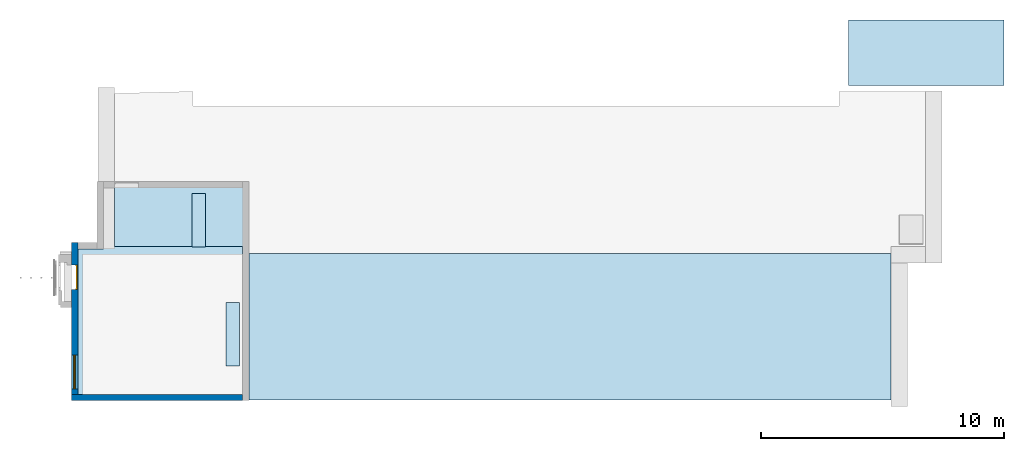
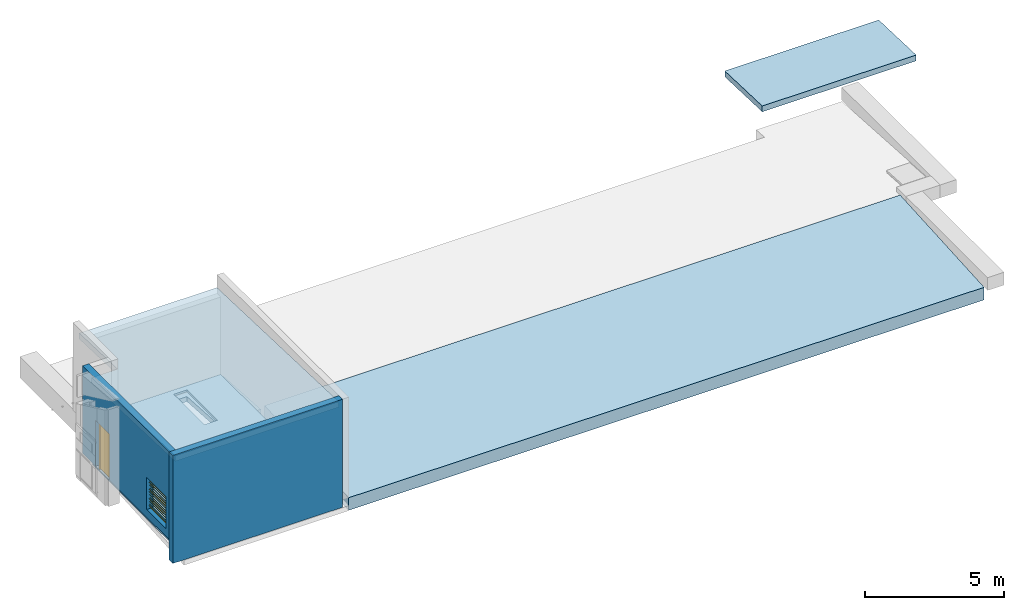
"""IFC2X3 building model written with IfcOpenShell, lengths in millimetres."""

import ifcopenshell
import ifcopenshell.guid

model = None  # the IFC model being written
_history = None  # IfcOwnerHistory: only IFC2X3 demands one
_inside = {}  # id of a spatial element -> (the spatial element, [elements in it])
_under = {}  # id of a project, library or spatial element -> (it, [spatial elements below it])
_declared = {}  # id of a project -> (the project, [libraries it declares])
_typed = {}  # id of a type object -> (the type object, [elements of that type])
_made_of = {}  # id of a material, layer set ... -> (it, [elements and type objects made of it])


def new_model(schema):
    """Start an empty IFC model of exactly this schema.

    Asked for "IFC4X3", IfcOpenShell would pick the latest addendum, in which some entities
    have other attributes; the version numbers below select the first issue.
    IFC2X3 requires an IfcOwnerHistory on every rooted entity: one is made here for all.
    """
    global model, _history
    if schema == "IFC4X3":
        model = ifcopenshell.file(schema_version=(4, 3, 0, 0))
    else:
        model = ifcopenshell.file(schema=schema)
    _inside.clear()
    _under.clear()
    _declared.clear()
    _typed.clear()
    _made_of.clear()
    _history = None
    if model.schema == "IFC2X3":
        org = make("IfcOrganization", Name="unknown")
        user = make(
            "IfcPersonAndOrganization",
            ThePerson=make("IfcPerson", FamilyName="unknown"),
            TheOrganization=org,
        )
        app = make(
            "IfcApplication",
            ApplicationDeveloper=org,
            Version="unknown",
            ApplicationFullName="unknown",
            ApplicationIdentifier="unknown",
        )
        _history = make(
            "IfcOwnerHistory",
            OwningUser=user,
            OwningApplication=app,
            ChangeAction="ADDED",
            CreationDate=0,
        )
    return model


def make(cls, **values):
    """One entity of the class cls with the attributes given. An attribute that is None is left unset."""
    return model.create_entity(
        cls, **{name: value for name, value in values.items() if value is not None}
    )


def entity(cls, *values):
    """Any entity or typed value of the class cls, its attributes in the order of the schema. None: left unset."""
    e = model.create_entity(cls)
    for i, value in enumerate(values):
        if value is not None:
            e[i] = value
    return e


def rooted(cls, **values):
    """An entity with a GlobalId (a new one), such as an element, a storey or a relation."""
    return make(cls, GlobalId=ifcopenshell.guid.new(), OwnerHistory=_history, **values)


def si_unit(unit_type, name, prefix=None):
    """IfcSIUnit, for example si_unit("LENGTHUNIT", "METRE", prefix="MILLI")."""
    return make("IfcSIUnit", UnitType=unit_type, Prefix=prefix, Name=name)


def converted_unit(unit_type, name, factor, base, dimensions=None, offset=None):
    """IfcConversionBasedUnit, such as the inch: factor (a typed value) times the base unit."""
    return make(
        "IfcConversionBasedUnit"
        if offset is None
        else "IfcConversionBasedUnitWithOffset",
        ConversionOffset=offset,
        Dimensions=None
        if dimensions is None
        else entity("IfcDimensionalExponents", *dimensions),
        UnitType=unit_type,
        Name=name,
        ConversionFactor=make(
            "IfcMeasureWithUnit", ValueComponent=factor, UnitComponent=base
        ),
    )


def derived_unit(unit_type, elements):
    """IfcDerivedUnit: a product of units, each with its exponent."""
    return make(
        "IfcDerivedUnit",
        Elements=[
            make("IfcDerivedUnitElement", Unit=unit, Exponent=power)
            for unit, power in elements
        ],
        UnitType=unit_type,
    )


def assignment(units):
    """IfcUnitAssignment: the units of a project."""
    return None if units is None else make("IfcUnitAssignment", Units=units)


def point(xyz):
    """IfcCartesianPoint."""
    return None if xyz is None else make("IfcCartesianPoint", Coordinates=xyz)


def direction(xyz):
    """IfcDirection."""
    return None if xyz is None else make("IfcDirection", DirectionRatios=xyz)


def frame(location, z_axis=None, x_axis=None):
    """IfcAxis2Placement3D, a coordinate frame: its origin and axes. An axis left out is left unset."""
    return make(
        "IfcAxis2Placement3D",
        Location=point(location),
        Axis=direction(z_axis),
        RefDirection=direction(x_axis),
    )


def frame_2d(location, x_axis=None):
    """IfcAxis2Placement2D, a coordinate frame in the plane: its origin and x axis."""
    return make(
        "IfcAxis2Placement2D", Location=point(location), RefDirection=direction(x_axis)
    )


def origin():
    """The frame at (0, 0, 0) with its axes left unset."""
    return frame((0.0, 0.0, 0.0))


def place(relative_to, where):
    """IfcLocalPlacement: puts the frame where relative to a parent placement (None: the world)."""
    return make(
        "IfcLocalPlacement", PlacementRelTo=relative_to, RelativePlacement=where
    )


def context(
    kind, dimensions, precision=None, world=None, true_north=None, identifier=None
):
    """IfcGeometricRepresentationContext, for example the 3D "Model" context."""
    return make(
        "IfcGeometricRepresentationContext",
        ContextIdentifier=identifier,
        ContextType=kind,
        CoordinateSpaceDimension=dimensions,
        Precision=precision,
        WorldCoordinateSystem=world,
        TrueNorth=true_north,
    )


def subcontext(parent, identifier, kind, view, scale=None):
    """IfcGeometricRepresentationSubContext, for example "Body" below "Model"."""
    return make(
        "IfcGeometricRepresentationSubContext",
        ContextIdentifier=identifier,
        ContextType=kind,
        ParentContext=parent,
        TargetScale=scale,
        TargetView=view,
    )


def project(units=None, contexts=None):
    """IfcProject with its units and contexts."""
    return rooted(
        "IfcProject",
        Name="project",
        RepresentationContexts=contexts,
        UnitsInContext=assignment(units),
    )


def spatial(cls, under=None, at=None, **own):
    """A site, building, storey or space (cls), placed at a placement, below another one or the project."""
    s = rooted(cls, ObjectPlacement=at, **own)
    if under is not None:
        _under.setdefault(under.id(), (under, []))[1].append(s)
    return s


def polyline(points):
    """IfcPolyline through the points."""
    return make("IfcPolyline", Points=[point(p) for p in points])


def circle_curve(where, radius):
    """IfcCircle in the frame where."""
    return make("IfcCircle", Position=where, Radius=radius)


def parameter(value):
    """IfcParameterValue: where a trimmed curve begins or ends, as a parameter of its basis curve."""
    return model.create_entity("IfcParameterValue", value)


def trimmed(basis, trim1, trim2, sense, master):
    """IfcTrimmedCurve: the piece of a basis curve between two trims."""
    return make(
        "IfcTrimmedCurve",
        BasisCurve=basis,
        Trim1=trim1,
        Trim2=trim2,
        SenseAgreement=sense,
        MasterRepresentation=master,
    )


def segment(curve, same_sense, transition):
    """IfcCompositeCurveSegment."""
    return make(
        "IfcCompositeCurveSegment",
        Transition=transition,
        SameSense=same_sense,
        ParentCurve=curve,
    )


def composite_curve(segments, self_intersect=None):
    """IfcCompositeCurve: segments joined end to end."""
    return make("IfcCompositeCurve", Segments=segments, SelfIntersect=self_intersect)


def profile(cls, at=None, kind="AREA", **sizes):
    """A parametric profile (cls). Its sizes go by their IFC names, for example OverallWidth=200.0."""
    return make(cls, ProfileType=kind, Position=at, **sizes)


def rectangle(**sizes):
    """IfcRectangleProfileDef."""
    return profile("IfcRectangleProfileDef", **sizes)


def outline(outer, holes=None, kind="AREA"):
    """IfcArbitraryClosedProfileDef: a profile drawn as a closed curve; with holes, ...WithVoids."""
    if holes is None:
        return make("IfcArbitraryClosedProfileDef", ProfileType=kind, OuterCurve=outer)
    return make(
        "IfcArbitraryProfileDefWithVoids",
        ProfileType=kind,
        OuterCurve=outer,
        InnerCurves=holes,
    )


def extrude(swept, where, along, depth):
    """IfcExtrudedAreaSolid: the profile swept, set in the frame where, extruded along a direction by depth."""
    return make(
        "IfcExtrudedAreaSolid",
        SweptArea=swept,
        Position=where,
        ExtrudedDirection=direction(along),
        Depth=depth,
    )


def faces_of(points, faces, orient=None, outer=None):
    """IfcFace entities. A face is a list of loops; a loop is a list of indices into points, from 0.

    orient and outer hold one flag for each loop. By default every Orientation is true, the
    first loop of a face is its IfcFaceOuterBound and the others are IfcFaceBound.
    """
    made = []
    for i, loops in enumerate(faces):
        bounds = []
        for j, loop in enumerate(loops):
            is_outer = j == 0 if outer is None else outer[i][j]
            bounds.append(
                make(
                    "IfcFaceOuterBound" if is_outer else "IfcFaceBound",
                    Bound=make("IfcPolyLoop", Polygon=[points[k] for k in loop]),
                    Orientation=True if orient is None else orient[i][j],
                )
            )
        made.append(make("IfcFace", Bounds=bounds))
    return made


def faceted_brep(points, faces, orient=None, outer=None, voids=None):
    """IfcFacetedBrep: a solid bounded by flat faces; with voids (closed shells), ...WithVoids."""
    shared = [point(p) for p in points]
    hull = make("IfcClosedShell", CfsFaces=faces_of(shared, faces, orient, outer))
    if voids is None:
        return make("IfcFacetedBrep", Outer=hull)
    return make(
        "IfcFacetedBrepWithVoids",
        Outer=hull,
        Voids=[
            make(cls, CfsFaces=faces_of(shared, fs, o, b)) for cls, fs, o, b in voids
        ],
    )


def shape(context_of_items, identifier, shape_type, items):
    """IfcShapeRepresentation: the items that make up one representation, for example the "Body"."""
    return make(
        "IfcShapeRepresentation",
        ContextOfItems=context_of_items,
        RepresentationIdentifier=identifier,
        RepresentationType=shape_type,
        Items=items,
    )


def source(mapping_origin, context_of_items, identifier, shape_type, items):
    """IfcRepresentationMap: a shape defined once, which mapped items show again and again."""
    return make(
        "IfcRepresentationMap",
        MappingOrigin=mapping_origin,
        MappedRepresentation=shape(context_of_items, identifier, shape_type, items),
    )


def transform(
    local_origin,
    x_axis=None,
    y_axis=None,
    z_axis=None,
    scale=None,
    scale2=None,
    scale3=None,
    uniform=True,
):
    """IfcCartesianTransformationOperator3D, or its non-uniform kind. x_axis, y_axis, z_axis: its Axis1, 2, 3."""
    if uniform:
        return make(
            "IfcCartesianTransformationOperator3D",
            Axis1=direction(x_axis),
            Axis2=direction(y_axis),
            LocalOrigin=point(local_origin),
            Scale=scale,
            Axis3=direction(z_axis),
        )
    return make(
        "IfcCartesianTransformationOperator3DnonUniform",
        Axis1=direction(x_axis),
        Axis2=direction(y_axis),
        LocalOrigin=point(local_origin),
        Scale=scale,
        Axis3=direction(z_axis),
        Scale2=scale2,
        Scale3=scale3,
    )


def mapped(mapping_source, mapping_target):
    """IfcMappedItem: shows the shape of a source again, moved by a transform."""
    return make(
        "IfcMappedItem", MappingSource=mapping_source, MappingTarget=mapping_target
    )


def material(Name=None, Category=None):
    """IfcMaterial."""
    return make("IfcMaterial", Name=Name, Category=Category)


def material_list(materials):
    """IfcMaterialList."""
    return make("IfcMaterialList", Materials=materials)


def layer(
    of_material, thickness, ventilated=None, Name=None, Category=None, Priority=None
):
    """IfcMaterialLayer: one layer of a wall or slab, of a material (None: an air gap)."""
    return make(
        "IfcMaterialLayer",
        Material=of_material,
        LayerThickness=thickness,
        IsVentilated=ventilated,
        Name=Name,
        Category=Category,
        Priority=Priority,
    )


def layer_set(layers, Name=None):
    """IfcMaterialLayerSet."""
    return make("IfcMaterialLayerSet", MaterialLayers=layers, LayerSetName=Name)


def layer_usage(for_layer_set, set_direction, sense, offset, extent=None):
    """IfcMaterialLayerSetUsage: how a layer set lies in its element."""
    return make(
        "IfcMaterialLayerSetUsage",
        ForLayerSet=for_layer_set,
        LayerSetDirection=set_direction,
        DirectionSense=sense,
        OffsetFromReferenceLine=offset,
        ReferenceExtent=extent,
    )


def made_of(thing, what):
    """Note that an element or type object is made of a material, layer set ...; save() writes the relation."""
    if what is not None:
        _made_of.setdefault(what.id(), (what, []))[1].append(thing)
    return thing


def type_object(cls, material=None, **own):
    """A type object (cls), such as IfcWallType, which elements share."""
    return made_of(rooted(cls, **own), material)


def type_shapes(of_type, sources):
    """Give a type object the sources (RepresentationMaps) that its elements show as mapped items."""
    of_type.RepresentationMaps = sources


def element(
    cls,
    number,
    at=None,
    inside=None,
    cuts=None,
    type_object=None,
    material=None,
    context=None,
    identifier="Body",
    shape_type=None,
    held_by="IfcProductDefinitionShape",
    body=None,
    shapes=None,
    **own,
):
    """One element of the class cls, such as IfcWall. Its Tag is "e" and its number.

    at: its placement. inside: the storey or other place that contains it. cuts: it is an
    opening in that element (IfcRelVoidsElement). A single representation is given by context,
    identifier, shape_type and body (its items); several are given by shapes. held_by: the class
    of the entity that holds the representations. save() writes the other relations.
    """
    e = rooted(cls, Tag="e%d" % number, ObjectPlacement=at, **own)
    if body is not None:
        shapes = [shape(context, identifier, shape_type, body)]
    if shapes is not None:
        e.Representation = make(held_by, Representations=shapes)
    if inside is not None:
        _inside.setdefault(inside.id(), (inside, []))[1].append(e)
    if cuts is not None:
        rooted(
            "IfcRelVoidsElement", RelatingBuildingElement=cuts, RelatedOpeningElement=e
        )
    if type_object is not None:
        _typed.setdefault(type_object.id(), (type_object, []))[1].append(e)
    return made_of(e, material)


def fill(opening, filler):
    """IfcRelFillsElement: the door or window that sits in an opening."""
    return rooted(
        "IfcRelFillsElement",
        RelatingOpeningElement=opening,
        RelatedBuildingElement=filler,
    )


def aggregate(whole, parts):
    """IfcRelAggregates: a whole, such as a stair, and the parts it consists of."""
    return rooted("IfcRelAggregates", RelatingObject=whole, RelatedObjects=parts)


def save(model, path):
    """Write the relations noted so far, then the file.

    IfcRelAggregates (storeys below a building ...), IfcRelContainedInSpatialStructure (elements
    in a storey), IfcRelDefinesByType, IfcRelAssociatesMaterial and IfcRelDeclares: one each for
    every whole, place, type object, material and project.
    """
    for whole, parts in _under.values():
        aggregate(whole, parts)
    for where, things in _inside.values():
        rooted(
            "IfcRelContainedInSpatialStructure",
            RelatedElements=things,
            RelatingStructure=where,
        )
    for kind, things in _typed.values():
        rooted("IfcRelDefinesByType", RelatedObjects=things, RelatingType=kind)
    for what, things in _made_of.values():
        rooted("IfcRelAssociatesMaterial", RelatedObjects=things, RelatingMaterial=what)
    for by, libraries in _declared.values():
        rooted("IfcRelDeclares", RelatingContext=by, RelatedDefinitions=libraries)
    model.write(path)


model = new_model("IFC2X3")

# Units and contexts
model_context = context("Model", 3, precision=0.01, world=origin(), true_north=direction((6.12303176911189e-17, 1.0)))
body_context = subcontext(model_context, "Body", "Model", "MODEL_VIEW")
ifc_project = project(units=[si_unit("LENGTHUNIT", "METRE", prefix="MILLI"), si_unit("AREAUNIT", "SQUARE_METRE"), si_unit("VOLUMEUNIT", "CUBIC_METRE"), converted_unit("PLANEANGLEUNIT", "DEGREE", entity("IfcRatioMeasure", 0.0174532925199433), si_unit("PLANEANGLEUNIT", "RADIAN"), dimensions=[0, 0, 0, 0, 0, 0, 0]), si_unit("MASSUNIT", "GRAM", prefix="KILO"), derived_unit("MASSDENSITYUNIT", [(si_unit("MASSUNIT", "GRAM", prefix="KILO"), 1), (si_unit("LENGTHUNIT", "METRE"), -3)]), si_unit("TIMEUNIT", "SECOND"), si_unit("FREQUENCYUNIT", "HERTZ"), si_unit("THERMODYNAMICTEMPERATUREUNIT", "DEGREE_CELSIUS"), derived_unit("THERMALTRANSMITTANCEUNIT", [(si_unit("MASSUNIT", "GRAM", prefix="KILO"), 1), (si_unit("THERMODYNAMICTEMPERATUREUNIT", "KELVIN"), -1), (si_unit("TIMEUNIT", "SECOND"), -3)]), derived_unit("VOLUMETRICFLOWRATEUNIT", [(si_unit("LENGTHUNIT", "METRE"), 3), (si_unit("TIMEUNIT", "SECOND"), -1)]), si_unit("ELECTRICCURRENTUNIT", "AMPERE"), si_unit("ELECTRICVOLTAGEUNIT", "VOLT"), si_unit("POWERUNIT", "WATT"), si_unit("FORCEUNIT", "NEWTON", prefix="KILO"), si_unit("ILLUMINANCEUNIT", "LUX"), si_unit("LUMINOUSFLUXUNIT", "LUMEN"), si_unit("LUMINOUSINTENSITYUNIT", "CANDELA"), derived_unit("USERDEFINED", [(si_unit("MASSUNIT", "GRAM", prefix="KILO"), -1), (si_unit("LENGTHUNIT", "METRE"), -2), (si_unit("TIMEUNIT", "SECOND"), 3), (si_unit("LUMINOUSFLUXUNIT", "LUMEN"), 1)]), derived_unit("LINEARVELOCITYUNIT", [(si_unit("LENGTHUNIT", "METRE"), 1), (si_unit("TIMEUNIT", "SECOND"), -1)]), si_unit("PRESSUREUNIT", "PASCAL"), derived_unit("USERDEFINED", [(si_unit("LENGTHUNIT", "METRE"), -2), (si_unit("MASSUNIT", "GRAM", prefix="KILO"), 1), (si_unit("TIMEUNIT", "SECOND"), -2)])], contexts=[model_context])

# Site, building, storey
site_placement = place(None, frame((-151.875543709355, 2715.0, 0.0)))
site = spatial("IfcSite", under=ifc_project, at=site_placement, Name="Surface", CompositionType="ELEMENT")
building_placement = place(site_placement, origin())
building = spatial("IfcBuilding", under=site, at=building_placement, CompositionType="ELEMENT")
storey_1_placement = place(building_placement, frame((0.0, 0.0, 13600.0)))
storey_1 = spatial("IfcBuildingStorey", under=building, at=storey_1_placement, Name="Katusekorrus", CompositionType="ELEMENT", Elevation=13600.0000000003)

# Roof, slab
roof_1_placement = place(storey_1_placement, frame((246.0, 495.904632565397, 3600.0)))
roof_1 = element("IfcRoof", 1, at=roof_1_placement, inside=storey_1, Name="Basic Roof:KL-2", ObjectType="Basic Roof:KL-2", ShapeType="NOTDEFINED")
ifc_material_1 = material(Name="PVC")
ifc_layer_1 = layer(ifc_material_1, 3.0)
ifc_material_2 = material(Name="Rocwool")
ifc_layer_2 = layer(ifc_material_2, 120.0)
ifc_material_3 = material(Name="Profiilplekk")
ifc_layer_3 = layer(ifc_material_3, 130.0)
ifc_layer_set_1 = layer_set([ifc_layer_1, ifc_layer_2, ifc_layer_3], Name="Basic Roof:KL-2")
slab_1_placement = place(roof_1_placement, origin())
slab_1 = element("IfcSlab", 2, at=slab_1_placement, material=ifc_layer_set_1, Name="Basic Roof:KL-2", ObjectType="Basic Roof:KL-2", PredefinedType="ROOF", context=body_context, shape_type="SweptSolid", body=[
    extrude(outline(polyline([(-3402.24674623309, -4386.71993649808), (3402.24674623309, -4386.71993649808), (3402.24674623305, 4386.71993649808), (-2326.24674623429, 4386.71993649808), (-2326.2467462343, 1635.04368967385), (-3402.24674623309, 1635.04368967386), (-3402.24674623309, -4386.71993649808)])), frame((3402.24674623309, 4384.04766523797, 153.094317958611), z_axis=(0.0, 0.0348994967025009, 0.999390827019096), x_axis=(1.0, 0.0, 0.0)), (0.0, -0.0348994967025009, 0.999390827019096), 253.154214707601),
])
aggregate(roof_1, [slab_1])

roof_2_placement = place(storey_1_placement, frame((1770.0, 6573.9522793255, -349.634558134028)))
roof_2 = element("IfcRoof", 3, at=roof_2_placement, inside=storey_1, Name="Basic Roof:Vent.ruumi õõnespaneelid", ObjectType="Basic Roof:Vent.ruumi õõnespaneelid", ShapeType="NOTDEFINED")
ifc_material_4 = material(Name="Betoon paneel")
ifc_layer_4 = layer(ifc_material_4, 220.0)
ifc_layer_set_2 = layer_set([ifc_layer_4], Name="Basic Roof:Vent.ruumi õõnespaneelid")
slab_2_placement = place(roof_2_placement, origin())
slab_2 = element("IfcSlab", 4, at=slab_2_placement, material=ifc_layer_set_2, Name="Basic Roof:Vent.ruumi õõnespaneelid", ObjectType="Basic Roof:Vent.ruumi õõnespaneelid", PredefinedType="ROOF", context=body_context, shape_type="SweptSolid", body=[
    extrude(outline(polyline([(-2773.24674625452, -1347.77272253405), (417.62618308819, -1347.77272253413), (417.62618308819, 842.742713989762), (967.516269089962, 842.742713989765), (967.516269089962, -1347.77272253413), (2773.2467462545, -1347.77272253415), (2773.24674625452, 1347.77272253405), (-2773.2467462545, 1347.77272253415), (-2773.24674625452, -1347.77272253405)])), frame((2773.24674625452, 1345.02384185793, 86.035902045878), z_axis=(0.0, 0.0638356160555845, 0.997960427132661), x_axis=(1.0, 0.0, 0.0)), (0.0, -0.0638356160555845, 0.997960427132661), 220.449623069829),
])
aggregate(roof_2, [slab_2])

roof_3_placement = place(storey_1_placement, frame((7316.49349250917, 249.90463256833, -564.560585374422)))
roof_3 = element("IfcRoof", 5, at=roof_3_placement, inside=storey_1, Name="Basic Roof:KL-1_olemasolev rekonstrueeritav katus", ObjectType="Basic Roof:KL-1_olemasolev rekonstrueeritav katus", ShapeType="NOTDEFINED")
ifc_material_5 = material(Name="SBS")
ifc_layer_5 = layer(ifc_material_5, 10.0)
ifc_material_6 = material(Name="Jäik villaplaat")
ifc_layer_6 = layer(ifc_material_6, 30.0)
ifc_material_7 = material(Name="Soojustus, polüuretaan")
ifc_layer_7 = layer(ifc_material_7, 120.0)
ifc_layer_8 = layer(ifc_material_7, 120.0)
ifc_material_8 = material(Name="Betoon")
ifc_layer_9 = layer(ifc_material_8, 50.0)
ifc_layer_10 = layer(ifc_material_4, 220.0)
ifc_layer_set_3 = layer_set([ifc_layer_5, ifc_layer_6, ifc_layer_7, ifc_layer_8, ifc_layer_9, ifc_layer_10], Name="Basic Roof:KL-1_olemasolev rekonstrueeritav katus")
slab_3_placement = place(roof_3_placement, origin())
slab_3 = element("IfcSlab", 6, at=slab_3_placement, material=ifc_layer_set_3, Name="Basic Roof:KL-1_olemasolev rekonstrueeritav katus", ObjectType="Basic Roof:KL-1_olemasolev rekonstrueeritav katus", PredefinedType="ROOF", context=body_context, shape_type="SweptSolid", body=[
    extrude(rectangle(XDim=6062.41241558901, YDim=26425.1227756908, at=frame_2d((-9.09494701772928e-13, 0.0), x_axis=(0.0, -1.0))), frame((13212.5613878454, 3025.02384185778, 193.498915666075), z_axis=(0.0, -0.0638356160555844, 0.997960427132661), x_axis=(1.0, 0.0, 0.0)), (0.0, 0.0638356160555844, 0.997960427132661), 551.12405767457),
])
aggregate(roof_3, [slab_3])

# Slab, openings
ifc_material_9 = material(Name="Viimistlus")
ifc_layer_11 = layer(ifc_material_9, 20.0)
ifc_layer_12 = layer(ifc_material_8, 30.0)
ifc_material_10 = material(Name="Helisummutusvill")
ifc_layer_13 = layer(ifc_material_10, 30.0)
ifc_layer_set_4 = layer_set([ifc_layer_11, ifc_layer_12, ifc_layer_13], Name="Floor:VL-2_vahelagi ventruumis")
ifc_layer_usage_1 = layer_usage(ifc_layer_set_4, "AXIS3", "POSITIVE", 0.0)
slab_4_placement = place(storey_1_placement, frame((266.0, 495.904632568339, 120.0)))
slab_4 = element("IfcSlab", 7, at=slab_4_placement, inside=storey_1, material=ifc_layer_usage_1, Name="Floor:VL-2_vahelagi ventruumis", ObjectType="Floor:VL-2_vahelagi ventruumis", PredefinedType="FLOOR", context=body_context, shape_type="SweptSolid", body=[
    extrude(outline(polyline([(2336.2467462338, 4251.04766523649), (-3392.2467462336, 4251.04766523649), (-3392.2467462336, -4251.04766523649), (3392.2467462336, -4251.04766523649), (3392.2467462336, 1722.04770219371), (2336.24674623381, 1722.04770219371), (2336.2467462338, 4251.04766523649)])), frame((3392.2467462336, 4251.04766523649, 80.0), z_axis=(0.0, 0.0, -1.0), x_axis=(-1.0, 0.0, 0.0)), (0.0, 0.0, 1.0), 79.9999999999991),
])
opening_1_placement = place(storey_1_placement, frame((266.0, 495.904632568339, 120.0)))
element("IfcOpeningElement", 8, at=opening_1_placement, cuts=slab_4, ObjectType="Opening", context=body_context, shape_type="SweptSolid", body=[
    extrude(rectangle(XDim=2599.75447314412, YDim=550.000000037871, at=frame_2d((-2979.24678317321, -1782.03012723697), x_axis=(0.0, -1.0))), frame((3392.2467462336, 4251.04766523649, 80.0), z_axis=(0.0, 0.0, -1.0), x_axis=(-1.0, 0.0, 0.0)), (0.0, 0.0, 1.0), 79.9999999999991),
])
opening_2_placement = place(storey_1_placement, frame((266.0, 495.904632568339, 120.0)))
element("IfcOpeningElement", 9, at=opening_2_placement, cuts=slab_4, ObjectType="Opening", context=body_context, shape_type="SweptSolid", body=[
    extrude(rectangle(XDim=2199.9999999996, YDim=549.890086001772, at=frame_2d((-1577.57122606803, 2913.04770219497), x_axis=(0.0, -1.0))), frame((3392.2467462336, 4251.04766523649, 80.0), z_axis=(0.0, 0.0, -1.0), x_axis=(-1.0, 0.0, 0.0)), (0.0, 0.0, 1.0), 79.9999999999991),
])

# Roof, slab
roof_4_placement = place(storey_1_placement, frame((31996.6162682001, 13210.0, 358.628025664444)))
roof_4 = element("IfcRoof", 10, at=roof_4_placement, inside=storey_1, Name="Basic Roof:KL-2", ObjectType="Basic Roof:KL-2", ShapeType="NOTDEFINED")
slab_5_placement = place(roof_4_placement, origin())
slab_5 = element("IfcSlab", 11, at=slab_5_placement, material=ifc_layer_set_1, Name="Basic Roof:KL-2", ObjectType="Basic Roof:KL-2", PredefinedType="ROOF", context=body_context, shape_type="SweptSolid", body=[
    extrude(rectangle(XDim=6400.00000000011, YDim=2697.68246543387, at=frame_2d((-1.29602995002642e-11, 6.28688212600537e-11), x_axis=(1.0, 0.0))), frame((3200.0, 1348.0195550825, 47.0738801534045), z_axis=(0.0, 0.0348994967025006, 0.999390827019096), x_axis=(1.0, 0.0, 0.0)), (0.0, -0.0348994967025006, 0.999390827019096), 253.154214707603),
])
aggregate(roof_4, [slab_5])

# Wall
ifc_material_11 = material(Name="External face timepruun h=1100mm")
ifc_layer_14 = layer(ifc_material_11, 54.0)
ifc_material_12 = material(Name="Core Mineral wool Mineral Wool h=1100mm")
ifc_layer_15 = layer(ifc_material_12, 200.0)
ifc_material_13 = material(Name="__Kips GKB_niiskuskindel")
ifc_layer_16 = layer(ifc_material_13, 12.0)
ifc_layer_set_5 = layer_set([ifc_layer_14, ifc_layer_15, ifc_layer_16], Name="Basic Wall:VS-3_vent.ruumide ja ladude välissein")
ifc_layer_usage_2 = layer_usage(ifc_layer_set_5, "AXIS2", "NEGATIVE", 133.0)
wall_type = type_object("IfcWallType", Name="Basic Wall:VS-3_vent.ruumide ja ladude välissein", PredefinedType="STANDARD", material=ifc_layer_set_5)
wall_1_placement = place(storey_1_placement, frame((7050.49349250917, 362.904632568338, -329.621595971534), z_axis=(0.0, 0.0, 1.0), x_axis=(-1.0, 0.0, 0.0)))
element("IfcWallStandardCase", 12, at=wall_1_placement, inside=storey_1, type_object=wall_type, material=ifc_layer_usage_2, Name="Basic Wall:VS-3_vent.ruumide ja ladude välissein", ObjectType="Basic Wall:VS-3_vent.ruumide ja ladude välissein", context=body_context, shape_type="SweptSolid", body=[
    extrude(rectangle(XDim=7050.49349246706, YDim=266.0, at=frame_2d((3525.24674623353, 0.0), x_axis=(-1.0, 0.0))), origin(), (0.0, 0.0, 1.0), 4749.62159597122),
])

# Wall, openings, door
ifc_layer_usage_3 = layer_usage(ifc_layer_set_5, "AXIS2", "NEGATIVE", 133.0)
wall_2_placement = place(storey_1_placement, frame((133.0, 495.90463256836, 560.0), z_axis=(0.0, 0.0, 1.0), x_axis=(0.0, 1.0, 0.0)))
wall_2 = element("IfcWallStandardCase", 13, at=wall_2_placement, inside=storey_1, type_object=wall_type, material=ifc_layer_usage_3, Name="Basic Wall:VS-3_vent.ruumide ja ladude välissein", ObjectType="Basic Wall:VS-3_vent.ruumide ja ladude välissein", context=body_context, shape_type="SweptSolid", body=[
    extrude(rectangle(XDim=6239.09536743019, YDim=266.0, at=frame_2d((3119.54768371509, -2.8421709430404e-14), x_axis=(-1.0, 0.0))), origin(), (0.0, 0.0, 1.0), 3860.0),
])
opening_3_placement = place(wall_2_placement, frame((5315.88964844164, 133.0, -178.0)))
opening_3 = element("IfcOpeningElement", 14, at=opening_3_placement, cuts=wall_2, Name="Ühepoolsed:VU-04:1", ObjectType="Opening", context=body_context, shape_type="SweptSolid", body=[
    extrude(rectangle(XDim=2199.99999999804, YDim=1000.0, at=frame_2d((1099.99999999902, 500.0), x_axis=(1.0, 0.0))), frame((0.0, 0.0, 0.0), z_axis=(0.0, -1.0, 0.0), x_axis=(0.0, 0.0, 1.0)), (0.0, 0.0, 1.0), 266.0),
])
opening_4_placement = place(wall_2_placement, frame((1625.09536743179, 133.0, 340.0)))
opening_4 = element("IfcOpeningElement", 15, at=opening_4_placement, cuts=wall_2, Name="Ventrestid:VR-01:1", ObjectType="Opening", context=body_context, shape_type="SweptSolid", body=[
    extrude(rectangle(XDim=1400.0, YDim=1400.0, at=frame_2d((700.000000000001, 700.0), x_axis=(-1.0, 0.0))), frame((0.0, 0.0, 0.0), z_axis=(0.0, -1.0, 0.0), x_axis=(0.0, 0.0, 1.0)), (0.0, 0.0, 1.0), 266.0),
])
ifc_material_14 = material(Name="_Alumiiniumprofiil - must")
ifc_material_15 = material(Name="Steel/Aluminium")
ifc_material_list_1 = material_list([ifc_material_14, ifc_material_15])
ifc_material_list_2 = material_list([ifc_material_14, ifc_material_15])
door_style = type_object("IfcDoorStyle", Name="VU-04", ConstructionType="NOTDEFINED", OperationType="FOLDING_TO_LEFT", ParameterTakesPrecedence=False, Sizeable=False, material=ifc_material_list_2)
shared_shape_1 = source(origin(), body_context, "Body", "Brep", [
    faceted_brep([(900.0, 156.0, 1112.5), (805.0, 156.0, 1112.5), (805.0, 151.0, 1112.5), (925.0, 151.0, 1112.5), (925.0, 194.0, 1112.5), (900.0, 194.0, 1112.5), (900.0, 156.0, 1087.5), (900.0, 194.0, 1087.5), (925.0, 194.0, 1087.5), (925.0, 151.0, 1087.5), (805.0, 151.0, 1087.5), (805.0, 156.0, 1087.5)], [[[0, 1, 2, 3, 4, 5]], [[6, 7, 8, 9, 10, 11]], [[5, 7, 6, 0]], [[4, 8, 7, 5]], [[3, 9, 8, 4]], [[2, 10, 9, 3]], [[1, 11, 10, 2]], [[0, 6, 11, 1]]]),
    faceted_brep([(887.500000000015, 194.0, 1137.5), (937.500000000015, 194.0, 1137.5), (937.500000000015, 196.0, 1137.5), (887.500000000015, 196.0, 1137.5), (887.500000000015, 194.0, 1017.5), (887.500000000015, 196.0, 1017.5), (937.500000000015, 196.0, 1017.5), (937.500000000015, 194.0, 1017.5)], [[[0, 1, 2, 3]], [[4, 5, 6, 7]], [[3, 5, 4, 0]], [[2, 6, 5, 3]], [[1, 7, 6, 2]], [[0, 4, 7, 1]]]),
    faceted_brep([(900.0, 286.0, 1112.5), (900.0, 248.0, 1112.5), (925.0, 248.0, 1112.5), (925.0, 291.0, 1112.5), (805.0, 291.0, 1112.5), (805.0, 286.0, 1112.5), (900.0, 286.0, 1087.5), (805.0, 286.0, 1087.5), (805.0, 291.0, 1087.5), (925.0, 291.0, 1087.5), (925.0, 248.0, 1087.5), (900.0, 248.0, 1087.5)], [[[0, 1, 2, 3, 4, 5]], [[6, 7, 8, 9, 10, 11]], [[1, 0, 6, 11]], [[2, 1, 11, 10]], [[3, 2, 10, 9]], [[4, 3, 9, 8]], [[5, 4, 8, 7]], [[0, 5, 7, 6]]]),
    faceted_brep([(887.500000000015, 248.0, 1137.5), (887.500000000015, 246.0, 1137.5), (937.500000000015, 246.0, 1137.5), (937.500000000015, 248.0, 1137.5), (887.500000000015, 248.0, 1017.5), (937.500000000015, 248.0, 1017.5), (937.500000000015, 246.0, 1017.5), (887.500000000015, 246.0, 1017.5)], [[[0, 1, 2, 3]], [[4, 5, 6, 7]], [[1, 0, 4, 7]], [[2, 1, 7, 6]], [[3, 2, 6, 5]], [[0, 3, 5, 4]]]),
    faceted_brep([(0.0, 156.0, 0.0), (0.0, 246.0, 0.0), (25.0, 246.0, 0.0), (25.0, 196.0, 0.0), (40.0, 196.0, 0.0), (40.0, 156.0, 0.0), (40.0, 156.0, 2160.0), (960.0, 156.0, 2160.0), (960.0, 156.0, 0.0), (1000.0, 156.0, 0.0), (1000.0, 156.0, 2200.0), (0.0, 156.0, 2200.0), (40.0, 196.0, 2160.0), (25.0, 196.0, 2175.0), (975.0, 196.0, 2175.0), (975.0, 196.0, 0.0), (960.0, 196.0, 0.0), (960.0, 196.0, 2160.0), (25.0, 246.0, 2175.0), (0.0, 246.0, 2200.0), (1000.0, 246.0, 2200.0), (1000.0, 246.0, 0.0), (975.0, 246.0, 0.0), (975.0, 246.0, 2175.0)], [[[0, 1, 2, 3, 4, 5]], [[5, 6, 7, 8, 9, 10, 11, 0]], [[4, 12, 6, 5]], [[3, 13, 14, 15, 16, 17, 12, 4]], [[2, 18, 13, 3]], [[1, 19, 20, 21, 22, 23, 18, 2]], [[0, 11, 19, 1]], [[9, 21, 20, 10]], [[8, 16, 15, 22, 21, 9]], [[7, 17, 16, 8]], [[14, 23, 22, 15]], [[6, 12, 17, 7]], [[13, 18, 23, 14]], [[10, 20, 19, 11]]]),
    faceted_brep([(975.0, 196.0, 2175.0), (25.0, 196.0, 2175.0), (25.0, 196.0, 20.0), (975.0, 196.0, 20.0), (975.0, 246.0, 2175.0), (975.0, 246.0, 20.0), (25.0, 246.0, 20.0), (25.0, 246.0, 2175.0)], [[[0, 1, 2, 3]], [[4, 5, 6, 7]], [[3, 5, 4, 0]], [[2, 6, 5, 3]], [[1, 7, 6, 2]], [[0, 4, 7, 1]]]),
])
type_shapes(door_style, [shared_shape_1])
door_placement = place(opening_3_placement, frame((0.0, -4.21223638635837e-08, 0.0), z_axis=(0.0, 0.0, 1.0), x_axis=(-1.0, 0.0, 0.0)))
door = element("IfcDoor", 16, at=door_placement, inside=storey_1, type_object=door_style, material=ifc_material_list_1, Name="Ühepoolsed:VU-04", ObjectType="VU-04", OverallHeight=2199.99999999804, OverallWidth=1000.0, context=body_context, shape_type="MappedRepresentation", body=[
    mapped(shared_shape_1, transform((0.0, 0.0, 0.0), scale=1.0)),
])
fill(opening_3, door)

# Storey
storey_2_placement = place(building_placement, origin())
storey_2 = spatial("IfcBuildingStorey", under=building, at=storey_2_placement, Name="1 korrus", CompositionType="ELEMENT", Elevation=3.0969999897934e-10)

# Window
window_style = type_object("IfcWindowStyle", Name="VR-01", ConstructionType="NOTDEFINED", OperationType="NOTDEFINED", ParameterTakesPrecedence=False, Sizeable=False, material=ifc_material_15)
shared_shape_2 = source(origin(), body_context, "Body", "SweptSolid", [
    extrude(outline(composite_curve([segment(polyline([(-76.1834617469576, -1.58749999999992), (76.1834617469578, -1.58749999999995)]), True, "CONTINUOUS"), segment(trimmed(circle_curve(frame_2d((0.0, 0.0), x_axis=(0.5, 0.86602540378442)), 76.2000000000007), [parameter(298.806251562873)], [parameter(301.193748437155)], True, "PARAMETER"), True, "CONTINUOUS"), segment(polyline([(76.1834617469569, 1.58750000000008), (-76.1834617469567, 1.58749999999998)]), True, "CONTINUOUS"), segment(trimmed(circle_curve(frame_2d((0.0, 0.0), x_axis=(0.5, 0.86602540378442)), 76.2000000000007), [parameter(118.806251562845)], [parameter(121.193748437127)], True, "PARAMETER"), True, "CONTINUOUS")], self_intersect=False)), frame((0.0, 133.0, 1219.83333333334), z_axis=(1.0, 0.0, 0.0), x_axis=(0.0, 0.500000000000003, -0.866025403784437)), (0.0, 0.0, 1.0), 1400.0),
    extrude(outline(composite_curve([segment(polyline([(-76.1834617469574, -1.58749999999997), (76.1834617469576, -1.58749999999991)]), True, "CONTINUOUS"), segment(trimmed(circle_curve(frame_2d((0.0, 0.0), x_axis=(0.5, 0.86602540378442)), 76.2000000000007), [parameter(298.806251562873)], [parameter(301.193748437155)], True, "PARAMETER"), True, "CONTINUOUS"), segment(polyline([(76.1834617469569, 1.58750000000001), (-76.1834617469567, 1.58750000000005)]), True, "CONTINUOUS"), segment(trimmed(circle_curve(frame_2d((0.0, 0.0), x_axis=(0.5, 0.86602540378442)), 76.2000000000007), [parameter(118.806251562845)], [parameter(121.193748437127)], True, "PARAMETER"), True, "CONTINUOUS")], self_intersect=False)), frame((0.0, 133.0, 1115.86666666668), z_axis=(1.0, 0.0, 0.0), x_axis=(0.0, 0.500000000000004, -0.866025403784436)), (0.0, 0.0, 1.0), 1400.0),
    extrude(outline(composite_curve([segment(polyline([(-76.1834617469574, -1.58749999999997), (76.1834617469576, -1.58749999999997)]), True, "CONTINUOUS"), segment(trimmed(circle_curve(frame_2d((0.0, 0.0), x_axis=(0.5, 0.86602540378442)), 76.2000000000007), [parameter(298.806251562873)], [parameter(301.193748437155)], True, "PARAMETER"), True, "CONTINUOUS"), segment(polyline([(76.1834617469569, 1.58750000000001), (-76.1834617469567, 1.58750000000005)]), True, "CONTINUOUS"), segment(trimmed(circle_curve(frame_2d((0.0, 0.0), x_axis=(0.5, 0.86602540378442)), 76.2000000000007), [parameter(118.806251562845)], [parameter(121.193748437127)], True, "PARAMETER"), True, "CONTINUOUS")], self_intersect=False)), frame((0.0, 133.0, 1011.90000000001), z_axis=(1.0, 0.0, 0.0), x_axis=(0.0, 0.500000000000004, -0.866025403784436)), (0.0, 0.0, 1.0), 1400.0),
    extrude(outline(composite_curve([segment(polyline([(-76.1834617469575, -1.58749999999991), (76.1834617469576, -1.58749999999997)]), True, "CONTINUOUS"), segment(trimmed(circle_curve(frame_2d((0.0, 0.0), x_axis=(0.5, 0.86602540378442)), 76.2000000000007), [parameter(298.806251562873)], [parameter(301.193748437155)], True, "PARAMETER"), True, "CONTINUOUS"), segment(polyline([(76.1834617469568, 1.58750000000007), (-76.1834617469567, 1.58750000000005)]), True, "CONTINUOUS"), segment(trimmed(circle_curve(frame_2d((0.0, 0.0), x_axis=(0.5, 0.86602540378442)), 76.2000000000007), [parameter(118.806251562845)], [parameter(121.193748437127)], True, "PARAMETER"), True, "CONTINUOUS")], self_intersect=False)), frame((0.0, 133.0, 907.933333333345), z_axis=(1.0, 0.0, 0.0), x_axis=(0.0, 0.500000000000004, -0.866025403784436)), (0.0, 0.0, 1.0), 1400.0),
    extrude(outline(composite_curve([segment(polyline([(-76.1834617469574, -1.58749999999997), (76.1834617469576, -1.58749999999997)]), True, "CONTINUOUS"), segment(trimmed(circle_curve(frame_2d((0.0, 0.0), x_axis=(0.5, 0.86602540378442)), 76.2000000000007), [parameter(298.806251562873)], [parameter(301.193748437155)], True, "PARAMETER"), True, "CONTINUOUS"), segment(polyline([(76.1834617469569, 1.58750000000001), (-76.1834617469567, 1.58750000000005)]), True, "CONTINUOUS"), segment(trimmed(circle_curve(frame_2d((0.0, 0.0), x_axis=(0.5, 0.86602540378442)), 76.2000000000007), [parameter(118.806251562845)], [parameter(121.193748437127)], True, "PARAMETER"), True, "CONTINUOUS")], self_intersect=False)), frame((0.0, 133.0, 803.966666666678), z_axis=(1.0, 0.0, 0.0), x_axis=(0.0, 0.500000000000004, -0.866025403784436)), (0.0, 0.0, 1.0), 1400.0),
    extrude(outline(composite_curve([segment(polyline([(-76.1834617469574, -1.58749999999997), (76.1834617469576, -1.58749999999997)]), True, "CONTINUOUS"), segment(trimmed(circle_curve(frame_2d((0.0, 0.0), x_axis=(0.5, 0.866025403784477)), 76.2000000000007), [parameter(298.806251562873)], [parameter(301.193748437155)], True, "PARAMETER"), True, "CONTINUOUS"), segment(polyline([(76.1834617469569, 1.58750000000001), (-76.1834617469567, 1.58750000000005)]), True, "CONTINUOUS"), segment(trimmed(circle_curve(frame_2d((0.0, 0.0), x_axis=(0.5, 0.866025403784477)), 76.2000000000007), [parameter(118.806251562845)], [parameter(121.193748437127)], True, "PARAMETER"), True, "CONTINUOUS")], self_intersect=False)), frame((0.0, 133.0, 700.0), z_axis=(1.0, 0.0, 0.0), x_axis=(0.0, 0.500000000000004, -0.866025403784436)), (0.0, 0.0, 1.0), 1400.0),
    extrude(outline(composite_curve([segment(polyline([(-76.1834617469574, -1.58749999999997), (76.1834617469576, -1.58749999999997)]), True, "CONTINUOUS"), segment(trimmed(circle_curve(frame_2d((0.0, 0.0), x_axis=(0.5, 0.86602540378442)), 76.2000000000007), [parameter(298.806251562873)], [parameter(301.193748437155)], True, "PARAMETER"), True, "CONTINUOUS"), segment(polyline([(76.1834617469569, 1.58750000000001), (-76.1834617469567, 1.58750000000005)]), True, "CONTINUOUS"), segment(trimmed(circle_curve(frame_2d((0.0, 0.0), x_axis=(0.5, 0.86602540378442)), 76.2000000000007), [parameter(118.806251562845)], [parameter(121.193748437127)], True, "PARAMETER"), True, "CONTINUOUS")], self_intersect=False)), frame((0.0, 133.0, 596.033333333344), z_axis=(1.0, 0.0, 0.0), x_axis=(0.0, 0.500000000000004, -0.866025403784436)), (0.0, 0.0, 1.0), 1400.0),
    extrude(outline(composite_curve([segment(polyline([(-76.1834617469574, -1.58749999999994), (76.1834617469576, -1.58749999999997)]), True, "CONTINUOUS"), segment(trimmed(circle_curve(frame_2d((0.0, 0.0), x_axis=(0.5, 0.866025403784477)), 76.2000000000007), [parameter(298.806251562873)], [parameter(301.193748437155)], True, "PARAMETER"), True, "CONTINUOUS"), segment(polyline([(76.1834617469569, 1.58750000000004), (-76.1834617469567, 1.58750000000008)]), True, "CONTINUOUS"), segment(trimmed(circle_curve(frame_2d((0.0, 0.0), x_axis=(0.5, 0.866025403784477)), 76.2000000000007), [parameter(118.806251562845)], [parameter(121.193748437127)], True, "PARAMETER"), True, "CONTINUOUS")], self_intersect=False)), frame((0.0, 133.0, 492.066666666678), z_axis=(1.0, 0.0, 0.0), x_axis=(0.0, 0.500000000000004, -0.866025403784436)), (0.0, 0.0, 1.0), 1400.0),
    extrude(outline(composite_curve([segment(polyline([(-76.1834617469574, -1.58749999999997), (76.1834617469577, -1.5875)]), True, "CONTINUOUS"), segment(trimmed(circle_curve(frame_2d((0.0, 0.0), x_axis=(0.5, 0.86602540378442)), 76.2000000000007), [parameter(298.806251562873)], [parameter(301.193748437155)], True, "PARAMETER"), True, "CONTINUOUS"), segment(polyline([(76.1834617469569, 1.58750000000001), (-76.1834617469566, 1.58750000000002)]), True, "CONTINUOUS"), segment(trimmed(circle_curve(frame_2d((0.0, 0.0), x_axis=(0.5, 0.86602540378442)), 76.2000000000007), [parameter(118.806251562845)], [parameter(121.193748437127)], True, "PARAMETER"), True, "CONTINUOUS")], self_intersect=False)), frame((0.0, 133.0, 388.100000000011), z_axis=(1.0, 0.0, 0.0), x_axis=(0.0, 0.500000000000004, -0.866025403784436)), (0.0, 0.0, 1.0), 1400.0),
    extrude(outline(composite_curve([segment(polyline([(-76.1834617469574, -1.58749999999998), (76.1834617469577, -1.58749999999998)]), True, "CONTINUOUS"), segment(trimmed(circle_curve(frame_2d((0.0, 0.0), x_axis=(0.5, 0.86602540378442)), 76.2000000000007), [parameter(298.806251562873)], [parameter(301.193748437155)], True, "PARAMETER"), True, "CONTINUOUS"), segment(polyline([(76.1834617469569, 1.58750000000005), (-76.1834617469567, 1.58750000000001)]), True, "CONTINUOUS"), segment(trimmed(circle_curve(frame_2d((0.0, 0.0), x_axis=(0.5, 0.86602540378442)), 76.2000000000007), [parameter(118.806251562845)], [parameter(121.193748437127)], True, "PARAMETER"), True, "CONTINUOUS")], self_intersect=False)), frame((0.0, 133.0, 284.133333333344), z_axis=(1.0, 0.0, 0.0), x_axis=(0.0, 0.500000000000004, -0.866025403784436)), (0.0, 0.0, 1.0), 1400.0),
    extrude(outline(composite_curve([segment(polyline([(-76.1834617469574, -1.58749999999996), (76.1834617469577, -1.58749999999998)]), True, "CONTINUOUS"), segment(trimmed(circle_curve(frame_2d((0.0, 0.0), x_axis=(0.500000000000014, 0.86602540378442)), 76.2000000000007), [parameter(298.806251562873)], [parameter(301.193748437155)], True, "PARAMETER"), True, "CONTINUOUS"), segment(polyline([(76.1834617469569, 1.58750000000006), (-76.1834617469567, 1.58750000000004)]), True, "CONTINUOUS"), segment(trimmed(circle_curve(frame_2d((0.0, 0.0), x_axis=(0.500000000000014, 0.86602540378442)), 76.2000000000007), [parameter(118.806251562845)], [parameter(121.193748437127)], True, "PARAMETER"), True, "CONTINUOUS")], self_intersect=False)), frame((0.0, 133.0, 180.166666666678), z_axis=(1.0, 0.0, 0.0), x_axis=(0.0, 0.500000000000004, -0.866025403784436)), (0.0, 0.0, 1.0), 1400.0),
    extrude(outline(composite_curve([segment(polyline([(-76.1834617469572, -1.58750000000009), (76.1834617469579, -1.58750000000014)]), True, "CONTINUOUS"), segment(trimmed(circle_curve(frame_2d((0.0, 0.0), x_axis=(0.5, 0.86602540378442)), 76.2000000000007), [parameter(298.806251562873)], [parameter(301.193748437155)], True, "PARAMETER"), True, "CONTINUOUS"), segment(polyline([(76.1834617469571, 1.5874999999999), (-76.1834617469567, 1.58750000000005)]), True, "CONTINUOUS"), segment(trimmed(circle_curve(frame_2d((0.0, 0.0), x_axis=(0.5, 0.86602540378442)), 76.2000000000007), [parameter(118.806251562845)], [parameter(121.193748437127)], True, "PARAMETER"), True, "CONTINUOUS")], self_intersect=False)), frame((0.0, 133.0, 1323.80000000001), z_axis=(1.0, 0.0, 0.0), x_axis=(0.0, 0.500000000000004, -0.866025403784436)), (0.0, 0.0, 1.0), 1400.0),
    extrude(outline(composite_curve([segment(polyline([(-76.1834617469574, -1.58749999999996), (76.1834617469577, -1.58749999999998)]), True, "CONTINUOUS"), segment(trimmed(circle_curve(frame_2d((0.0, 0.0), x_axis=(0.500000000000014, 0.86602540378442)), 76.2000000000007), [parameter(298.806251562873)], [parameter(301.193748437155)], True, "PARAMETER"), True, "CONTINUOUS"), segment(polyline([(76.1834617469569, 1.58750000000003), (-76.1834617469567, 1.58750000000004)]), True, "CONTINUOUS"), segment(trimmed(circle_curve(frame_2d((0.0, 0.0), x_axis=(0.500000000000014, 0.86602540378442)), 76.2000000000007), [parameter(118.806251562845)], [parameter(121.193748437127)], True, "PARAMETER"), True, "CONTINUOUS")], self_intersect=False)), frame((0.0, 133.0, 76.2000000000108), z_axis=(1.0, 0.0, 0.0), x_axis=(0.0, 0.500000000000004, -0.866025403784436)), (0.0, 0.0, 1.0), 1400.0),
])
type_shapes(window_style, [shared_shape_2])
window_placement = place(opening_4_placement, frame((0.0, -4.21164080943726e-08, 0.0), z_axis=(0.0, 0.0, 1.0), x_axis=(-1.0, 0.0, 0.0)))
window = element("IfcWindow", 17, at=window_placement, inside=storey_2, type_object=window_style, material=ifc_material_15, Name="Ventrestid:VR-01", ObjectType="VR-01", OverallHeight=1400.0, OverallWidth=1400.0, context=body_context, shape_type="MappedRepresentation", body=[
    mapped(shared_shape_2, transform((0.0, 0.0, 0.0), scale=1.0)),
])

fill(opening_4, window)

save(model, "model.ifc")
